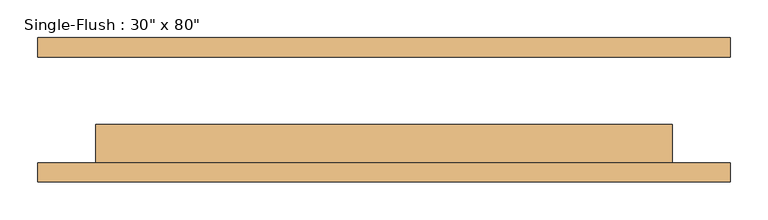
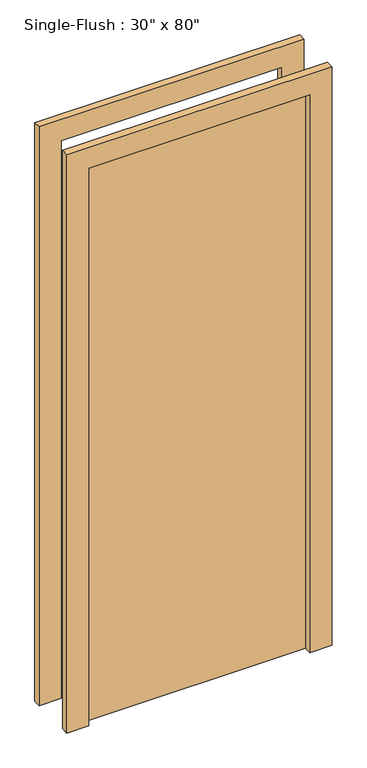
"""IFC4 building model written with IfcOpenShell, lengths in millimetres: door geometry."""

from ifc_helpers import new_model, si_unit, frame, origin, origin_with_axes, place, context, project, spatial, polyline, outline, extrude, source, transform, mapped, element, save


def door_1a0a1737(model_context):
    return source(origin(), model_context, "Body", "SweptSolid", [
        extrude(outline(polyline([(2108.2, -457.2), (0.0, -457.2), (0.0, -381.0), (2032.0, -381.0), (2032.0, 381.0), (0.0, 381.0), (0.0, 457.2), (2108.2, 457.2), (2108.2, -457.2)])), frame((0.0, -95.4, 0.0), z_axis=(0.0, 1.0, 0.0), x_axis=(0.0, 0.0, 1.0)), (0.0, 0.0, 1.0), 25.4),
        extrude(outline(polyline([(2108.2, 457.2), (2108.2, -457.2), (0.0, -457.2), (0.0, -381.0), (2032.0, -381.0), (2032.0, 381.0), (0.0, 381.0), (0.0, 457.2), (2108.2, 457.2)])), frame((0.0, 70.0, 0.0), z_axis=(0.0, 1.0, 0.0), x_axis=(0.0, 0.0, 1.0)), (0.0, 0.0, 1.0), 25.4),
        extrude(outline(polyline([(381.0, -19.2), (381.0, -70.0), (-381.0, -70.0), (-381.0, -19.2), (381.0, -19.2)])), origin_with_axes(), (0.0, 0.0, 1.0), 2032.0),
    ])


if __name__ == "__main__":
    model = new_model("IFC4")
    model_context = context("Model", 3, world=origin())
    ifc_project = project(units=[si_unit("LENGTHUNIT", "METRE", prefix="MILLI")], contexts=[model_context])
    site = spatial("IfcSite", under=ifc_project)
    building = spatial("IfcBuilding", under=site)
    placement = place(None, origin())
    door_shape = door_1a0a1737(model_context)
    element("IfcDoor", 1, ObjectType="Single-Flush : 30\" x 80\"", at=placement, inside=building, context=model_context, shape_type="MappedRepresentation", body=[
        mapped(door_shape, transform((0.0, 0.0, 0.0), x_axis=(1.0, 0.0, 0.0), y_axis=(0.0, 1.0, 0.0), z_axis=(0.0, 0.0, 1.0))),
    ])
    save(model, "model.ifc")
